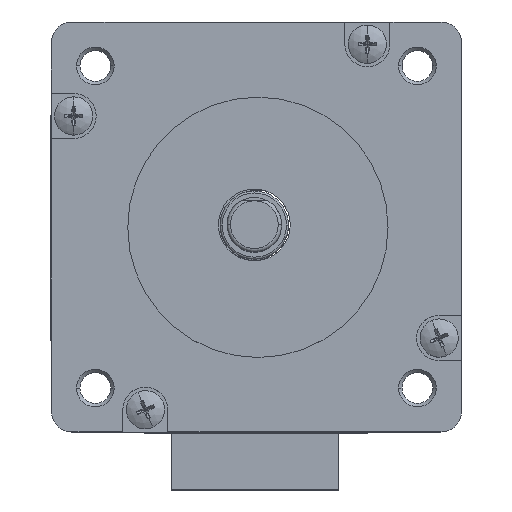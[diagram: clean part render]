
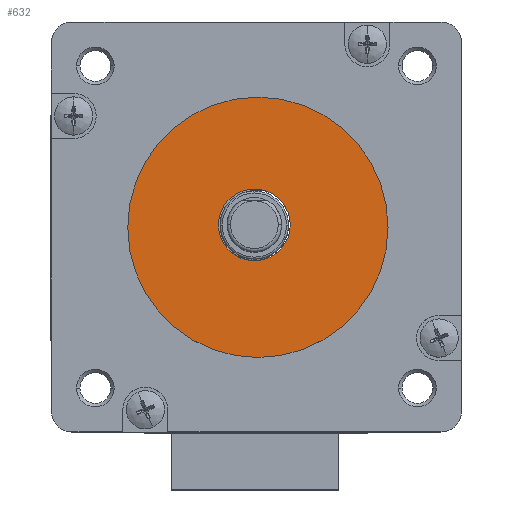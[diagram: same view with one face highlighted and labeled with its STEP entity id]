
A CAD part, top view. The second image highlights one B-rep face of the part: STEP entity #632.
In plain terms, the highlighted planar face has unit normal (0, 0, 1).
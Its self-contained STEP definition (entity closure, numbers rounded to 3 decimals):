
#597 = DIRECTION ( 'NONE',  ( 1., 0., 0. ) ) ;
#632 = ADVANCED_FACE ( 'NONE', ( #12316, #17329 ), #5507, .T. ) ;
#908 = CARTESIAN_POINT ( 'NONE',  ( 0.225, -0.055, 12.1 ) ) ;
#1261 = CARTESIAN_POINT ( 'NONE',  ( 0.225, -0.055, 12.1 ) ) ;
#1701 = DIRECTION ( 'NONE',  ( -1., 0., 0. ) ) ;
#1901 = AXIS2_PLACEMENT_3D ( 'NONE', #908, #19753, #17617 ) ;
#1904 = EDGE_CURVE ( 'NONE', #18396, #19845, #20696, .T. ) ;
#2674 = DIRECTION ( 'NONE',  ( 0., 0., 1. ) ) ;
#3423 = AXIS2_PLACEMENT_3D ( 'NONE', #1261, #20122, #17978 ) ;
#3748 = DIRECTION ( 'NONE',  ( 0., 0., -1. ) ) ;
#4433 = AXIS2_PLACEMENT_3D ( 'NONE', #14622, #3748, #1701 ) ;
#4710 = CARTESIAN_POINT ( 'NONE',  ( 0.225, -0.055, 12.1 ) ) ;
#5507 = PLANE ( 'NONE',  #15025 ) ;
#5822 = CARTESIAN_POINT ( 'NONE',  ( 4.952, 0.299, 12.1 ) ) ;
#6263 = EDGE_CURVE ( 'NONE', #18211, #10627, #16850, .T. ) ;
#6337 = CARTESIAN_POINT ( 'NONE',  ( -0.298, 0.299, 12.1 ) ) ;
#6909 = ORIENTED_EDGE ( 'NONE', *, *, #19328, .T. ) ;
#8117 = CIRCLE ( 'NONE', #3423, 19.05 ) ;
#9326 = ORIENTED_EDGE ( 'NONE', *, *, #6263, .T. ) ;
#9615 = EDGE_LOOP ( 'NONE', ( #6909, #19192 ) ) ;
#10274 = CARTESIAN_POINT ( 'NONE',  ( -5.548, 0.299, 12.1 ) ) ;
#10627 = VERTEX_POINT ( 'NONE', #10274 ) ;
#10727 = ORIENTED_EDGE ( 'NONE', *, *, #14471, .T. ) ;
#11550 = CIRCLE ( 'NONE', #14579, 5.25 ) ;
#11931 = EDGE_LOOP ( 'NONE', ( #10727, #9326 ) ) ;
#12316 = FACE_BOUND ( 'NONE', #11931, .T. ) ;
#12391 = DIRECTION ( 'NONE',  ( -1., 0., 0. ) ) ;
#13640 = CARTESIAN_POINT ( 'NONE',  ( -18.825, -0.055, 12.1 ) ) ;
#14471 = EDGE_CURVE ( 'NONE', #10627, #18211, #11550, .T. ) ;
#14537 = DIRECTION ( 'NONE',  ( 0., 0., -1. ) ) ;
#14579 = AXIS2_PLACEMENT_3D ( 'NONE', #6337, #14537, #12391 ) ;
#14622 = CARTESIAN_POINT ( 'NONE',  ( -0.298, 0.299, 12.1 ) ) ;
#15025 = AXIS2_PLACEMENT_3D ( 'NONE', #4710, #2674, #597 ) ;
#15819 = CARTESIAN_POINT ( 'NONE',  ( 19.275, -0.055, 12.1 ) ) ;
#16850 = CIRCLE ( 'NONE', #4433, 5.25 ) ;
#17329 = FACE_OUTER_BOUND ( 'NONE', #9615, .T. ) ;
#17617 = DIRECTION ( 'NONE',  ( 1., 0., 0. ) ) ;
#17978 = DIRECTION ( 'NONE',  ( 1., 0., 0. ) ) ;
#18211 = VERTEX_POINT ( 'NONE', #5822 ) ;
#18396 = VERTEX_POINT ( 'NONE', #15819 ) ;
#19192 = ORIENTED_EDGE ( 'NONE', *, *, #1904, .T. ) ;
#19328 = EDGE_CURVE ( 'NONE', #19845, #18396, #8117, .T. ) ;
#19753 = DIRECTION ( 'NONE',  ( 0., 0., 1. ) ) ;
#19845 = VERTEX_POINT ( 'NONE', #13640 ) ;
#20122 = DIRECTION ( 'NONE',  ( 0., 0., 1. ) ) ;
#20696 = CIRCLE ( 'NONE', #1901, 19.05 ) ;
